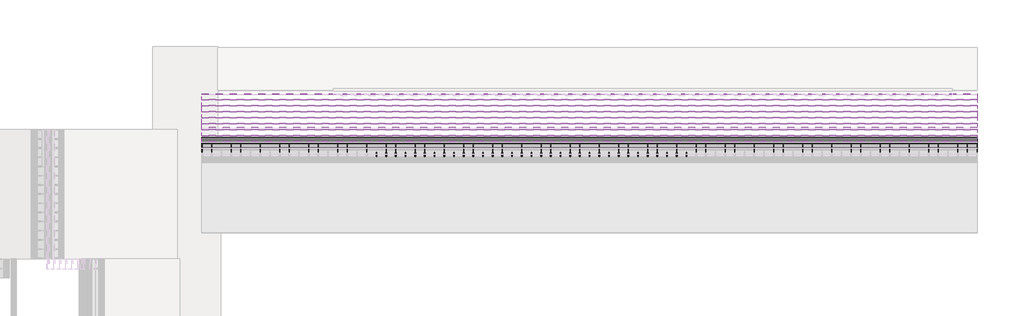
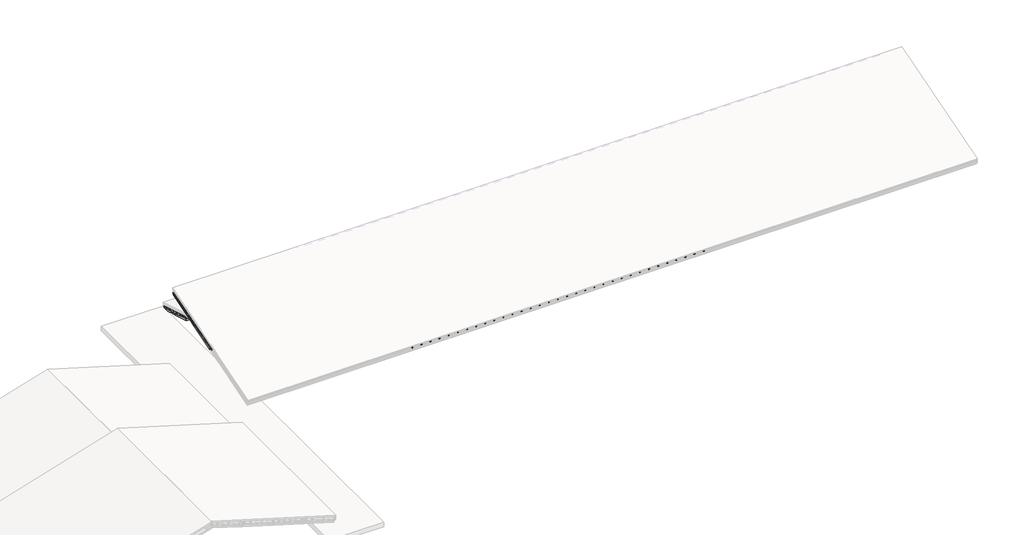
# One storey, part 56 of 57: 67 members, 55 plates.
"""IFC4 building model written with IfcOpenShell, lengths in millimetres."""

from ifc_helpers import new_model, si_unit, origin, place, context, project, spatial, transform, mapped, element, save
from components import rectangular_mullion_caibro_ac6bc083, rectangular_mullion_caibro_51e85f04, empty_system_panel_vazio_e755573b, empty_system_panel_vazio_700aa425, empty_system_panel_vazio_226a38a9, empty_system_panel_vazio_61b4e04a, empty_system_panel_vazio_b4dcf635, empty_system_panel_vazio_fe0185ec, empty_system_panel_vazio_7533109b

model = new_model("IFC4")

# Units and contexts
model_context = context("Model", 3, world=origin())
ifc_project = project(units=[si_unit("LENGTHUNIT", "METRE", prefix="MILLI")], contexts=[model_context])

# Site, building, storey
site = spatial("IfcSite", under=ifc_project)
building = spatial("IfcBuilding", under=site)
storey = spatial("IfcBuildingStorey", under=building, Name="Nível 2", Elevation=4100.0)

# Members
placement = place(None, origin())
rectangular_mullion_caibro_shape = rectangular_mullion_caibro_ac6bc083(model_context)
element("IfcMember", 1, ObjectType="Rectangular Mullion : Caibro", at=placement, inside=storey, context=model_context, shape_type="MappedRepresentation", body=[
    mapped(rectangular_mullion_caibro_shape, transform((12522.37465, 36560.5418609, 6394.8354824), x_axis=(1.0, 0.0, 0.0), y_axis=(0.0, 0.2873478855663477, -0.9578262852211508), z_axis=(0.0, 0.9578262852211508, 0.2873478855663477))),
])
element("IfcMember", 2, ObjectType="Rectangular Mullion : Caibro", at=placement, inside=storey, context=model_context, shape_type="MappedRepresentation", body=[
    mapped(rectangular_mullion_caibro_shape, transform((13120.7549887, 36560.5418609, 6394.8354824), x_axis=(1.0, 0.0, 0.0), y_axis=(0.0, 0.2873478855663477, -0.9578262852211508), z_axis=(0.0, 0.9578262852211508, 0.2873478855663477))),
])
element("IfcMember", 3, ObjectType="Rectangular Mullion : Caibro", at=placement, inside=storey, context=model_context, shape_type="MappedRepresentation", body=[
    mapped(rectangular_mullion_caibro_shape, transform((13719.1353275, 36560.5418609, 6394.8354824), x_axis=(1.0, 0.0, 0.0), y_axis=(0.0, 0.2873478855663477, -0.9578262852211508), z_axis=(0.0, 0.9578262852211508, 0.2873478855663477))),
])
element("IfcMember", 4, ObjectType="Rectangular Mullion : Caibro", at=placement, inside=storey, context=model_context, shape_type="MappedRepresentation", body=[
    mapped(rectangular_mullion_caibro_shape, transform((14317.5156662, 36560.5418609, 6394.8354824), x_axis=(1.0, 0.0, 0.0), y_axis=(0.0, 0.2873478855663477, -0.9578262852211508), z_axis=(0.0, 0.9578262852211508, 0.2873478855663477))),
])
element("IfcMember", 5, ObjectType="Rectangular Mullion : Caibro", at=placement, inside=storey, context=model_context, shape_type="MappedRepresentation", body=[
    mapped(rectangular_mullion_caibro_shape, transform((14915.8960049, 36560.5418609, 6394.8354824), x_axis=(1.0, 0.0, 0.0), y_axis=(0.0, 0.2873478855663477, -0.9578262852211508), z_axis=(0.0, 0.9578262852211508, 0.2873478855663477))),
])
element("IfcMember", 6, ObjectType="Rectangular Mullion : Caibro", at=placement, inside=storey, context=model_context, shape_type="MappedRepresentation", body=[
    mapped(rectangular_mullion_caibro_shape, transform((15514.2763437, 36560.5418609, 6394.8354824), x_axis=(1.0, 0.0, 0.0), y_axis=(0.0, 0.2873478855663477, -0.9578262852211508), z_axis=(0.0, 0.9578262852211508, 0.2873478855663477))),
])
element("IfcMember", 7, ObjectType="Rectangular Mullion : Caibro", at=placement, inside=storey, context=model_context, shape_type="MappedRepresentation", body=[
    mapped(rectangular_mullion_caibro_shape, transform((16112.6566824, 36560.5418609, 6394.8354824), x_axis=(1.0, 0.0, 0.0), y_axis=(0.0, 0.2873478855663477, -0.9578262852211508), z_axis=(0.0, 0.9578262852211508, 0.2873478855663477))),
])
element("IfcMember", 8, ObjectType="Rectangular Mullion : Caibro", at=placement, inside=storey, context=model_context, shape_type="MappedRepresentation", body=[
    mapped(rectangular_mullion_caibro_shape, transform((16711.0370211, 36560.5418609, 6394.8354824), x_axis=(1.0, 0.0, 0.0), y_axis=(0.0, 0.2873478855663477, -0.9578262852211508), z_axis=(0.0, 0.9578262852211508, 0.2873478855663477))),
])
element("IfcMember", 9, ObjectType="Rectangular Mullion : Caibro", at=placement, inside=storey, context=model_context, shape_type="MappedRepresentation", body=[
    mapped(rectangular_mullion_caibro_shape, transform((17309.4173599, 36560.5418609, 6394.8354824), x_axis=(1.0, 0.0, 0.0), y_axis=(0.0, 0.2873478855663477, -0.9578262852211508), z_axis=(0.0, 0.9578262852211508, 0.2873478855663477))),
])
element("IfcMember", 10, ObjectType="Rectangular Mullion : Caibro", at=placement, inside=storey, context=model_context, shape_type="MappedRepresentation", body=[
    mapped(rectangular_mullion_caibro_shape, transform((17907.7976986, 36560.5418609, 6394.8354824), x_axis=(1.0, 0.0, 0.0), y_axis=(0.0, 0.2873478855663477, -0.9578262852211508), z_axis=(0.0, 0.9578262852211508, 0.2873478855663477))),
])
element("IfcMember", 11, ObjectType="Rectangular Mullion : Caibro", at=placement, inside=storey, context=model_context, shape_type="MappedRepresentation", body=[
    mapped(rectangular_mullion_caibro_shape, transform((18506.1780373, 36560.5418609, 6394.8354824), x_axis=(1.0, 0.0, 0.0), y_axis=(0.0, 0.2873478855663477, -0.9578262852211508), z_axis=(0.0, 0.9578262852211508, 0.2873478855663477))),
])
element("IfcMember", 12, ObjectType="Rectangular Mullion : Caibro", at=placement, inside=storey, context=model_context, shape_type="MappedRepresentation", body=[
    mapped(rectangular_mullion_caibro_shape, transform((19104.5583761, 36560.5418609, 6394.8354824), x_axis=(1.0, 0.0, 0.0), y_axis=(0.0, 0.2873478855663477, -0.9578262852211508), z_axis=(0.0, 0.9578262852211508, 0.2873478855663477))),
])
element("IfcMember", 13, ObjectType="Rectangular Mullion : Caibro", at=placement, inside=storey, context=model_context, shape_type="MappedRepresentation", body=[
    mapped(rectangular_mullion_caibro_shape, transform((19702.9387148, 36560.5418609, 6394.8354824), x_axis=(1.0, 0.0, 0.0), y_axis=(0.0, 0.2873478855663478, -0.9578262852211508), z_axis=(0.0, 0.9578262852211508, 0.2873478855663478))),
])
element("IfcMember", 14, ObjectType="Rectangular Mullion : Caibro", at=placement, inside=storey, context=model_context, shape_type="MappedRepresentation", body=[
    mapped(rectangular_mullion_caibro_shape, transform((20301.3190536, 36560.5418609, 6394.8354824), x_axis=(1.0, 0.0, 0.0), y_axis=(0.0, 0.2873478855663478, -0.9578262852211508), z_axis=(0.0, 0.9578262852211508, 0.2873478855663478))),
])
element("IfcMember", 15, ObjectType="Rectangular Mullion : Caibro", at=placement, inside=storey, context=model_context, shape_type="MappedRepresentation", body=[
    mapped(rectangular_mullion_caibro_shape, transform((20899.6993923, 36560.5418609, 6394.8354824), x_axis=(1.0, 0.0, 0.0), y_axis=(0.0, 0.2873478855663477, -0.9578262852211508), z_axis=(0.0, 0.9578262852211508, 0.2873478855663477))),
])
element("IfcMember", 16, ObjectType="Rectangular Mullion : Caibro", at=placement, inside=storey, context=model_context, shape_type="MappedRepresentation", body=[
    mapped(rectangular_mullion_caibro_shape, transform((21498.079731, 36560.5418609, 6394.8354824), x_axis=(1.0, 0.0, 0.0), y_axis=(0.0, 0.2873478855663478, -0.9578262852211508), z_axis=(0.0, 0.9578262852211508, 0.2873478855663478))),
])
element("IfcMember", 17, ObjectType="Rectangular Mullion : Caibro", at=placement, inside=storey, context=model_context, shape_type="MappedRepresentation", body=[
    mapped(rectangular_mullion_caibro_shape, transform((22096.4600698, 36560.5418609, 6394.8354824), x_axis=(1.0, 0.0, 0.0), y_axis=(0.0, 0.2873478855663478, -0.9578262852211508), z_axis=(0.0, 0.9578262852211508, 0.2873478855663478))),
])
element("IfcMember", 18, ObjectType="Rectangular Mullion : Caibro", at=placement, inside=storey, context=model_context, shape_type="MappedRepresentation", body=[
    mapped(rectangular_mullion_caibro_shape, transform((22694.8404085, 36560.5418609, 6394.8354824), x_axis=(1.0, 0.0, 0.0), y_axis=(0.0, 0.2873478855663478, -0.9578262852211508), z_axis=(0.0, 0.9578262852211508, 0.2873478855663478))),
])
element("IfcMember", 19, ObjectType="Rectangular Mullion : Caibro", at=placement, inside=storey, context=model_context, shape_type="MappedRepresentation", body=[
    mapped(rectangular_mullion_caibro_shape, transform((23293.2207472, 36560.5418609, 6394.8354824), x_axis=(1.0, 0.0, 0.0), y_axis=(0.0, 0.2873478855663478, -0.9578262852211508), z_axis=(0.0, 0.9578262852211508, 0.2873478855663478))),
])
element("IfcMember", 20, ObjectType="Rectangular Mullion : Caibro", at=placement, inside=storey, context=model_context, shape_type="MappedRepresentation", body=[
    mapped(rectangular_mullion_caibro_shape, transform((23891.601086, 36560.5418609, 6394.8354824), x_axis=(1.0, 0.0, 0.0), y_axis=(0.0, 0.2873478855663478, -0.9578262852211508), z_axis=(0.0, 0.9578262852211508, 0.2873478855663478))),
])
element("IfcMember", 21, ObjectType="Rectangular Mullion : Caibro", at=placement, inside=storey, context=model_context, shape_type="MappedRepresentation", body=[
    mapped(rectangular_mullion_caibro_shape, transform((24489.9814247, 36560.5418609, 6394.8354824), x_axis=(1.0, 0.0, 0.0), y_axis=(0.0, 0.2873478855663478, -0.9578262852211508), z_axis=(0.0, 0.9578262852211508, 0.2873478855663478))),
])
element("IfcMember", 22, ObjectType="Rectangular Mullion : Caibro", at=placement, inside=storey, context=model_context, shape_type="MappedRepresentation", body=[
    mapped(rectangular_mullion_caibro_shape, transform((25088.3617634, 36560.5418609, 6394.8354824), x_axis=(1.0, 0.0, 0.0), y_axis=(0.0, 0.2873478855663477, -0.9578262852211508), z_axis=(0.0, 0.9578262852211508, 0.2873478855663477))),
])
element("IfcMember", 23, ObjectType="Rectangular Mullion : Caibro", at=placement, inside=storey, context=model_context, shape_type="MappedRepresentation", body=[
    mapped(rectangular_mullion_caibro_shape, transform((25686.7421022, 36560.5418609, 6394.8354824), x_axis=(1.0, 0.0, 0.0), y_axis=(0.0, 0.2873478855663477, -0.9578262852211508), z_axis=(0.0, 0.9578262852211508, 0.2873478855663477))),
])
element("IfcMember", 24, ObjectType="Rectangular Mullion : Caibro", at=placement, inside=storey, context=model_context, shape_type="MappedRepresentation", body=[
    mapped(rectangular_mullion_caibro_shape, transform((26285.1224409, 36560.5418609, 6394.8354824), x_axis=(1.0, 0.0, 0.0), y_axis=(0.0, 0.2873478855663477, -0.9578262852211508), z_axis=(0.0, 0.9578262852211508, 0.2873478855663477))),
])
element("IfcMember", 25, ObjectType="Rectangular Mullion : Caibro", at=placement, inside=storey, context=model_context, shape_type="MappedRepresentation", body=[
    mapped(rectangular_mullion_caibro_shape, transform((26883.5027796, 36560.5418609, 6394.8354824), x_axis=(1.0, 0.0, 0.0), y_axis=(0.0, 0.2873478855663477, -0.9578262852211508), z_axis=(0.0, 0.9578262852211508, 0.2873478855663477))),
])
element("IfcMember", 26, ObjectType="Rectangular Mullion : Caibro", at=placement, inside=storey, context=model_context, shape_type="MappedRepresentation", body=[
    mapped(rectangular_mullion_caibro_shape, transform((27481.8831184, 36560.5418609, 6394.8354824), x_axis=(1.0, 0.0, 0.0), y_axis=(0.0, 0.2873478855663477, -0.9578262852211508), z_axis=(0.0, 0.9578262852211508, 0.2873478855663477))),
])
element("IfcMember", 27, ObjectType="Rectangular Mullion : Caibro", at=placement, inside=storey, context=model_context, shape_type="MappedRepresentation", body=[
    mapped(rectangular_mullion_caibro_shape, transform((28080.2634571, 36560.5418609, 6394.8354824), x_axis=(1.0, 0.0, 0.0), y_axis=(0.0, 0.2873478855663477, -0.9578262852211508), z_axis=(0.0, 0.9578262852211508, 0.2873478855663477))),
])
element("IfcMember", 28, ObjectType="Rectangular Mullion : Caibro", at=placement, inside=storey, context=model_context, shape_type="MappedRepresentation", body=[
    mapped(rectangular_mullion_caibro_shape, transform((28678.6437958, 36560.5418609, 6394.8354824), x_axis=(1.0, 0.0, 0.0), y_axis=(0.0, 0.2873478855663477, -0.9578262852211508), z_axis=(0.0, 0.9578262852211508, 0.2873478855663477))),
])
element("IfcMember", 29, ObjectType="Rectangular Mullion : Caibro", at=placement, inside=storey, context=model_context, shape_type="MappedRepresentation", body=[
    mapped(rectangular_mullion_caibro_shape, transform((29277.0241346, 36560.5418609, 6394.8354824), x_axis=(1.0, 0.0, 0.0), y_axis=(0.0, 0.2873478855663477, -0.9578262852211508), z_axis=(0.0, 0.9578262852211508, 0.2873478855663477))),
])
element("IfcMember", 30, ObjectType="Rectangular Mullion : Caibro", at=placement, inside=storey, context=model_context, shape_type="MappedRepresentation", body=[
    mapped(rectangular_mullion_caibro_shape, transform((29875.4044733, 36560.5418609, 6394.8354824), x_axis=(1.0, 0.0, 0.0), y_axis=(0.0, 0.2873478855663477, -0.9578262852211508), z_axis=(0.0, 0.9578262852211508, 0.2873478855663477))),
])
element("IfcMember", 31, ObjectType="Rectangular Mullion : Caibro", at=placement, inside=storey, context=model_context, shape_type="MappedRepresentation", body=[
    mapped(rectangular_mullion_caibro_shape, transform((30473.784812, 36560.5418609, 6394.8354824), x_axis=(1.0, 0.0, 0.0), y_axis=(0.0, 0.2873478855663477, -0.9578262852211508), z_axis=(0.0, 0.9578262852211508, 0.2873478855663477))),
])
element("IfcMember", 32, ObjectType="Rectangular Mullion : Caibro", at=placement, inside=storey, context=model_context, shape_type="MappedRepresentation", body=[
    mapped(rectangular_mullion_caibro_shape, transform((31072.1651508, 36560.5418609, 6394.8354824), x_axis=(1.0, 0.0, 0.0), y_axis=(0.0, 0.2873478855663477, -0.9578262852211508), z_axis=(0.0, 0.9578262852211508, 0.2873478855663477))),
])
element("IfcMember", 33, ObjectType="Rectangular Mullion : Caibro", at=placement, inside=storey, context=model_context, shape_type="MappedRepresentation", body=[
    mapped(rectangular_mullion_caibro_shape, transform((31670.5454895, 36560.5418609, 6394.8354824), x_axis=(1.0, 0.0, 0.0), y_axis=(0.0, 0.2873478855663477, -0.9578262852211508), z_axis=(0.0, 0.9578262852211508, 0.2873478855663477))),
])
rectangular_mullion_caibro_2_shape = rectangular_mullion_caibro_51e85f04(model_context)
element("IfcMember", 34, ObjectType="Rectangular Mullion : Caibro", at=placement, inside=storey, context=model_context, shape_type="MappedRepresentation", body=[
    mapped(rectangular_mullion_caibro_2_shape, transform((31823.0592849, 36776.0629917, 4109.1977012), x_axis=(-1.0, 0.0, 0.0), y_axis=(0.0, -0.2873478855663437, -0.9578262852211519), z_axis=(0.0, -0.9578262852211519, 0.2873478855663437))),
])
element("IfcMember", 35, ObjectType="Rectangular Mullion : Caibro", at=placement, inside=storey, context=model_context, shape_type="MappedRepresentation", body=[
    mapped(rectangular_mullion_caibro_2_shape, transform((31229.7627394, 36776.0629917, 4109.1977012), x_axis=(-1.0, 0.0, 0.0), y_axis=(0.0, -0.2873478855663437, -0.9578262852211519), z_axis=(0.0, -0.9578262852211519, 0.2873478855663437))),
])
element("IfcMember", 36, ObjectType="Rectangular Mullion : Caibro", at=placement, inside=storey, context=model_context, shape_type="MappedRepresentation", body=[
    mapped(rectangular_mullion_caibro_2_shape, transform((30636.4661938, 36776.0629917, 4109.1977012), x_axis=(-1.0, 0.0, 0.0), y_axis=(0.0, -0.2873478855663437, -0.9578262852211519), z_axis=(0.0, -0.9578262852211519, 0.2873478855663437))),
])
element("IfcMember", 37, ObjectType="Rectangular Mullion : Caibro", at=placement, inside=storey, context=model_context, shape_type="MappedRepresentation", body=[
    mapped(rectangular_mullion_caibro_2_shape, transform((30043.1696483, 36776.0629917, 4109.1977012), x_axis=(-1.0, 0.0, 0.0), y_axis=(0.0, -0.2873478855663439, -0.9578262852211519), z_axis=(0.0, -0.9578262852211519, 0.2873478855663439))),
])
element("IfcMember", 38, ObjectType="Rectangular Mullion : Caibro", at=placement, inside=storey, context=model_context, shape_type="MappedRepresentation", body=[
    mapped(rectangular_mullion_caibro_2_shape, transform((29449.8731027, 36776.0629917, 4109.1977012), x_axis=(-1.0, 0.0, 0.0), y_axis=(0.0, -0.2873478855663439, -0.9578262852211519), z_axis=(0.0, -0.9578262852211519, 0.2873478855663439))),
])
element("IfcMember", 39, ObjectType="Rectangular Mullion : Caibro", at=placement, inside=storey, context=model_context, shape_type="MappedRepresentation", body=[
    mapped(rectangular_mullion_caibro_2_shape, transform((28856.5765572, 36776.0629917, 4109.1977012), x_axis=(-1.0, 0.0, 0.0), y_axis=(0.0, -0.2873478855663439, -0.9578262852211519), z_axis=(0.0, -0.9578262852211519, 0.2873478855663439))),
])
element("IfcMember", 40, ObjectType="Rectangular Mullion : Caibro", at=placement, inside=storey, context=model_context, shape_type="MappedRepresentation", body=[
    mapped(rectangular_mullion_caibro_2_shape, transform((28263.2800116, 36776.0629917, 4109.1977012), x_axis=(-1.0, 0.0, 0.0), y_axis=(0.0, -0.2873478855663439, -0.9578262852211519), z_axis=(0.0, -0.9578262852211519, 0.2873478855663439))),
])
element("IfcMember", 41, ObjectType="Rectangular Mullion : Caibro", at=placement, inside=storey, context=model_context, shape_type="MappedRepresentation", body=[
    mapped(rectangular_mullion_caibro_2_shape, transform((27669.983466, 36776.0629917, 4109.1977012), x_axis=(-1.0, 0.0, 0.0), y_axis=(0.0, -0.2873478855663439, -0.9578262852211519), z_axis=(0.0, -0.9578262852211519, 0.2873478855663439))),
])
element("IfcMember", 42, ObjectType="Rectangular Mullion : Caibro", at=placement, inside=storey, context=model_context, shape_type="MappedRepresentation", body=[
    mapped(rectangular_mullion_caibro_2_shape, transform((27076.6869205, 36776.0629917, 4109.1977012), x_axis=(-1.0, 0.0, 0.0), y_axis=(0.0, -0.2873478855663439, -0.9578262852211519), z_axis=(0.0, -0.9578262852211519, 0.2873478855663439))),
])
element("IfcMember", 43, ObjectType="Rectangular Mullion : Caibro", at=placement, inside=storey, context=model_context, shape_type="MappedRepresentation", body=[
    mapped(rectangular_mullion_caibro_2_shape, transform((26483.3903749, 36776.0629917, 4109.1977012), x_axis=(-1.0, 0.0, 0.0), y_axis=(0.0, -0.2873478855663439, -0.9578262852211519), z_axis=(0.0, -0.9578262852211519, 0.2873478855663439))),
])
element("IfcMember", 44, ObjectType="Rectangular Mullion : Caibro", at=placement, inside=storey, context=model_context, shape_type="MappedRepresentation", body=[
    mapped(rectangular_mullion_caibro_2_shape, transform((25890.0938294, 36776.0629917, 4109.1977012), x_axis=(-1.0, 0.0, 0.0), y_axis=(0.0, -0.2873478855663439, -0.9578262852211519), z_axis=(0.0, -0.9578262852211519, 0.2873478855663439))),
])
element("IfcMember", 45, ObjectType="Rectangular Mullion : Caibro", at=placement, inside=storey, context=model_context, shape_type="MappedRepresentation", body=[
    mapped(rectangular_mullion_caibro_2_shape, transform((25296.7972838, 36776.0629917, 4109.1977012), x_axis=(-1.0, 0.0, 0.0), y_axis=(0.0, -0.2873478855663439, -0.9578262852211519), z_axis=(0.0, -0.9578262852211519, 0.2873478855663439))),
])
element("IfcMember", 46, ObjectType="Rectangular Mullion : Caibro", at=placement, inside=storey, context=model_context, shape_type="MappedRepresentation", body=[
    mapped(rectangular_mullion_caibro_2_shape, transform((24703.5007383, 36776.0629917, 4109.1977012), x_axis=(-1.0, 0.0, 0.0), y_axis=(0.0, -0.2873478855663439, -0.9578262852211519), z_axis=(0.0, -0.9578262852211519, 0.2873478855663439))),
])
element("IfcMember", 47, ObjectType="Rectangular Mullion : Caibro", at=placement, inside=storey, context=model_context, shape_type="MappedRepresentation", body=[
    mapped(rectangular_mullion_caibro_2_shape, transform((24110.2041927, 36776.0629917, 4109.1977012), x_axis=(-1.0, 0.0, 0.0), y_axis=(0.0, -0.2873478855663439, -0.9578262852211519), z_axis=(0.0, -0.9578262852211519, 0.2873478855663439))),
])
element("IfcMember", 48, ObjectType="Rectangular Mullion : Caibro", at=placement, inside=storey, context=model_context, shape_type="MappedRepresentation", body=[
    mapped(rectangular_mullion_caibro_2_shape, transform((23516.9076472, 36776.0629917, 4109.1977012), x_axis=(-1.0, 0.0, 0.0), y_axis=(0.0, -0.2873478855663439, -0.9578262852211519), z_axis=(0.0, -0.9578262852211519, 0.2873478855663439))),
])
element("IfcMember", 49, ObjectType="Rectangular Mullion : Caibro", at=placement, inside=storey, context=model_context, shape_type="MappedRepresentation", body=[
    mapped(rectangular_mullion_caibro_2_shape, transform((22923.6111016, 36776.0629917, 4109.1977012), x_axis=(-1.0, 0.0, 0.0), y_axis=(0.0, -0.2873478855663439, -0.9578262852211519), z_axis=(0.0, -0.9578262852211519, 0.2873478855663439))),
])
element("IfcMember", 50, ObjectType="Rectangular Mullion : Caibro", at=placement, inside=storey, context=model_context, shape_type="MappedRepresentation", body=[
    mapped(rectangular_mullion_caibro_2_shape, transform((22330.3145561, 36776.0629917, 4109.1977012), x_axis=(-1.0, 0.0, 0.0), y_axis=(0.0, -0.2873478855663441, -0.9578262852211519), z_axis=(0.0, -0.9578262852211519, 0.2873478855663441))),
])
element("IfcMember", 51, ObjectType="Rectangular Mullion : Caibro", at=placement, inside=storey, context=model_context, shape_type="MappedRepresentation", body=[
    mapped(rectangular_mullion_caibro_2_shape, transform((21737.0180105, 36776.0629917, 4109.1977012), x_axis=(-1.0, 0.0, 0.0), y_axis=(0.0, -0.2873478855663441, -0.9578262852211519), z_axis=(0.0, -0.9578262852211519, 0.2873478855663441))),
])
element("IfcMember", 52, ObjectType="Rectangular Mullion : Caibro", at=placement, inside=storey, context=model_context, shape_type="MappedRepresentation", body=[
    mapped(rectangular_mullion_caibro_2_shape, transform((21143.721465, 36776.0629917, 4109.1977012), x_axis=(-1.0, 0.0, 0.0), y_axis=(0.0, -0.2873478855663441, -0.9578262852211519), z_axis=(0.0, -0.9578262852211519, 0.2873478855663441))),
])
element("IfcMember", 53, ObjectType="Rectangular Mullion : Caibro", at=placement, inside=storey, context=model_context, shape_type="MappedRepresentation", body=[
    mapped(rectangular_mullion_caibro_2_shape, transform((20550.4249194, 36776.0629917, 4109.1977012), x_axis=(-1.0, 0.0, 0.0), y_axis=(0.0, -0.2873478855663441, -0.9578262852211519), z_axis=(0.0, -0.9578262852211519, 0.2873478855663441))),
])
element("IfcMember", 54, ObjectType="Rectangular Mullion : Caibro", at=placement, inside=storey, context=model_context, shape_type="MappedRepresentation", body=[
    mapped(rectangular_mullion_caibro_2_shape, transform((19957.1283738, 36776.0629917, 4109.1977012), x_axis=(-1.0, 0.0, 0.0), y_axis=(0.0, -0.2873478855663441, -0.9578262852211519), z_axis=(0.0, -0.9578262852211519, 0.2873478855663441))),
])
element("IfcMember", 55, ObjectType="Rectangular Mullion : Caibro", at=placement, inside=storey, context=model_context, shape_type="MappedRepresentation", body=[
    mapped(rectangular_mullion_caibro_2_shape, transform((19363.8318283, 36776.0629917, 4109.1977012), x_axis=(-1.0, 0.0, 0.0), y_axis=(0.0, -0.2873478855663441, -0.9578262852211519), z_axis=(0.0, -0.9578262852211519, 0.2873478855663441))),
])
element("IfcMember", 56, ObjectType="Rectangular Mullion : Caibro", at=placement, inside=storey, context=model_context, shape_type="MappedRepresentation", body=[
    mapped(rectangular_mullion_caibro_2_shape, transform((18770.5352827, 36776.0629917, 4109.1977012), x_axis=(-1.0, 0.0, 0.0), y_axis=(0.0, -0.2873478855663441, -0.9578262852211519), z_axis=(0.0, -0.9578262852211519, 0.2873478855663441))),
])
element("IfcMember", 57, ObjectType="Rectangular Mullion : Caibro", at=placement, inside=storey, context=model_context, shape_type="MappedRepresentation", body=[
    mapped(rectangular_mullion_caibro_2_shape, transform((18177.2387372, 36776.0629917, 4109.1977012), x_axis=(-1.0, 0.0, 0.0), y_axis=(0.0, -0.2873478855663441, -0.9578262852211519), z_axis=(0.0, -0.9578262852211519, 0.2873478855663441))),
])
element("IfcMember", 58, ObjectType="Rectangular Mullion : Caibro", at=placement, inside=storey, context=model_context, shape_type="MappedRepresentation", body=[
    mapped(rectangular_mullion_caibro_2_shape, transform((17583.9421916, 36776.0629917, 4109.1977012), x_axis=(-1.0, 0.0, 0.0), y_axis=(0.0, -0.2873478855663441, -0.9578262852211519), z_axis=(0.0, -0.9578262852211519, 0.2873478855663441))),
])
element("IfcMember", 59, ObjectType="Rectangular Mullion : Caibro", at=placement, inside=storey, context=model_context, shape_type="MappedRepresentation", body=[
    mapped(rectangular_mullion_caibro_2_shape, transform((16990.6456461, 36776.0629917, 4109.1977012), x_axis=(-1.0, 0.0, 0.0), y_axis=(0.0, -0.2873478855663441, -0.9578262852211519), z_axis=(0.0, -0.9578262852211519, 0.2873478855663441))),
])
element("IfcMember", 60, ObjectType="Rectangular Mullion : Caibro", at=placement, inside=storey, context=model_context, shape_type="MappedRepresentation", body=[
    mapped(rectangular_mullion_caibro_2_shape, transform((16397.3491005, 36776.0629917, 4109.1977012), x_axis=(-1.0, 0.0, 0.0), y_axis=(0.0, -0.2873478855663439, -0.9578262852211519), z_axis=(0.0, -0.9578262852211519, 0.2873478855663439))),
])
element("IfcMember", 61, ObjectType="Rectangular Mullion : Caibro", at=placement, inside=storey, context=model_context, shape_type="MappedRepresentation", body=[
    mapped(rectangular_mullion_caibro_2_shape, transform((15804.052555, 36776.0629917, 4109.1977012), x_axis=(-1.0, 0.0, 0.0), y_axis=(0.0, -0.2873478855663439, -0.9578262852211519), z_axis=(0.0, -0.9578262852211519, 0.2873478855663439))),
])
element("IfcMember", 62, ObjectType="Rectangular Mullion : Caibro", at=placement, inside=storey, context=model_context, shape_type="MappedRepresentation", body=[
    mapped(rectangular_mullion_caibro_2_shape, transform((15210.7560094, 36776.0629917, 4109.1977012), x_axis=(-1.0, 0.0, 0.0), y_axis=(0.0, -0.2873478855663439, -0.9578262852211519), z_axis=(0.0, -0.9578262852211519, 0.2873478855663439))),
])
element("IfcMember", 63, ObjectType="Rectangular Mullion : Caibro", at=placement, inside=storey, context=model_context, shape_type="MappedRepresentation", body=[
    mapped(rectangular_mullion_caibro_2_shape, transform((14617.4594639, 36776.0629917, 4109.1977012), x_axis=(-1.0, 0.0, 0.0), y_axis=(0.0, -0.2873478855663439, -0.9578262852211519), z_axis=(0.0, -0.9578262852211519, 0.2873478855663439))),
])
element("IfcMember", 64, ObjectType="Rectangular Mullion : Caibro", at=placement, inside=storey, context=model_context, shape_type="MappedRepresentation", body=[
    mapped(rectangular_mullion_caibro_2_shape, transform((14024.1629183, 36776.0629917, 4109.1977012), x_axis=(-1.0, 0.0, 0.0), y_axis=(0.0, -0.2873478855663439, -0.9578262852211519), z_axis=(0.0, -0.9578262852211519, 0.2873478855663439))),
])
element("IfcMember", 65, ObjectType="Rectangular Mullion : Caibro", at=placement, inside=storey, context=model_context, shape_type="MappedRepresentation", body=[
    mapped(rectangular_mullion_caibro_2_shape, transform((13430.8663728, 36776.0629917, 4109.1977012), x_axis=(-1.0, 0.0, 0.0), y_axis=(0.0, -0.2873478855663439, -0.9578262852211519), z_axis=(0.0, -0.9578262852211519, 0.2873478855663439))),
])
element("IfcMember", 66, ObjectType="Rectangular Mullion : Caibro", at=placement, inside=storey, context=model_context, shape_type="MappedRepresentation", body=[
    mapped(rectangular_mullion_caibro_2_shape, transform((12837.5698272, 36776.0629917, 4109.1977012), x_axis=(-1.0, 0.0, 0.0), y_axis=(0.0, -0.2873478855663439, -0.9578262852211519), z_axis=(0.0, -0.9578262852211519, 0.2873478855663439))),
])
element("IfcMember", 67, ObjectType="Rectangular Mullion : Caibro", at=placement, inside=storey, context=model_context, shape_type="MappedRepresentation", body=[
    mapped(rectangular_mullion_caibro_2_shape, transform((12244.2732816, 36776.0629917, 4109.1977012), x_axis=(-1.0, 0.0, 0.0), y_axis=(0.0, -0.2873478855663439, -0.9578262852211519), z_axis=(0.0, -0.9578262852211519, 0.2873478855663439))),
])

# Plates
empty_system_panel_vazio_shape = empty_system_panel_vazio_e755573b(model_context)
element("IfcPlate", 68, ObjectType="Empty System Panel : Vazio", at=placement, inside=storey, context=model_context, shape_type="MappedRepresentation", body=[
    mapped(empty_system_panel_vazio_shape, transform((25686.7421022, 32116.1727819, 5061.5247587), x_axis=(1.0, 0.0, 0.0), y_axis=(0.0, 0.2873478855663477, -0.9578262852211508), z_axis=(0.0, 0.9578262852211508, 0.2873478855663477))),
])
element("IfcPlate", 69, ObjectType="Empty System Panel : Vazio", at=placement, inside=storey, context=model_context, shape_type="MappedRepresentation", body=[
    mapped(empty_system_panel_vazio_shape, transform((25686.7421022, 32486.5368718, 5172.6339857), x_axis=(1.0, 0.0, 0.0), y_axis=(0.0, 0.2873478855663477, -0.9578262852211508), z_axis=(0.0, 0.9578262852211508, 0.2873478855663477))),
])
element("IfcPlate", 70, ObjectType="Empty System Panel : Vazio", at=placement, inside=storey, context=model_context, shape_type="MappedRepresentation", body=[
    mapped(empty_system_panel_vazio_shape, transform((25686.7421022, 32856.9009617, 5283.7432127), x_axis=(1.0, 0.0, 0.0), y_axis=(0.0, 0.2873478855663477, -0.9578262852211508), z_axis=(0.0, 0.9578262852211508, 0.2873478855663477))),
])
element("IfcPlate", 71, ObjectType="Empty System Panel : Vazio", at=placement, inside=storey, context=model_context, shape_type="MappedRepresentation", body=[
    mapped(empty_system_panel_vazio_shape, transform((25686.7421022, 33227.2650516, 5394.8524396), x_axis=(1.0, 0.0, 0.0), y_axis=(0.0, 0.2873478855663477, -0.9578262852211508), z_axis=(0.0, 0.9578262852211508, 0.2873478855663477))),
])
element("IfcPlate", 72, ObjectType="Empty System Panel : Vazio", at=placement, inside=storey, context=model_context, shape_type="MappedRepresentation", body=[
    mapped(empty_system_panel_vazio_shape, transform((25686.7421022, 33597.6291416, 5505.9616666), x_axis=(1.0, 0.0, 0.0), y_axis=(0.0, 0.2873478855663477, -0.9578262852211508), z_axis=(0.0, 0.9578262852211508, 0.2873478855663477))),
])
element("IfcPlate", 73, ObjectType="Empty System Panel : Vazio", at=placement, inside=storey, context=model_context, shape_type="MappedRepresentation", body=[
    mapped(empty_system_panel_vazio_shape, transform((25686.7421022, 33967.9932315, 5617.0708936), x_axis=(1.0, 0.0, 0.0), y_axis=(0.0, 0.2873478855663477, -0.9578262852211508), z_axis=(0.0, 0.9578262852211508, 0.2873478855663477))),
])
element("IfcPlate", 74, ObjectType="Empty System Panel : Vazio", at=placement, inside=storey, context=model_context, shape_type="MappedRepresentation", body=[
    mapped(empty_system_panel_vazio_shape, transform((25686.7421022, 34338.3573214, 5728.1801206), x_axis=(1.0, 0.0, 0.0), y_axis=(0.0, 0.2873478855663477, -0.9578262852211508), z_axis=(0.0, 0.9578262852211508, 0.2873478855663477))),
])
element("IfcPlate", 75, ObjectType="Empty System Panel : Vazio", at=placement, inside=storey, context=model_context, shape_type="MappedRepresentation", body=[
    mapped(empty_system_panel_vazio_shape, transform((25686.7421022, 34708.7214113, 5839.2893475), x_axis=(1.0, 0.0, 0.0), y_axis=(0.0, 0.2873478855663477, -0.9578262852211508), z_axis=(0.0, 0.9578262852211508, 0.2873478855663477))),
])
element("IfcPlate", 76, ObjectType="Empty System Panel : Vazio", at=placement, inside=storey, context=model_context, shape_type="MappedRepresentation", body=[
    mapped(empty_system_panel_vazio_shape, transform((25686.7421022, 35079.0855012, 5950.3985745), x_axis=(1.0, 0.0, 0.0), y_axis=(0.0, 0.2873478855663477, -0.9578262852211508), z_axis=(0.0, 0.9578262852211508, 0.2873478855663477))),
])
element("IfcPlate", 77, ObjectType="Empty System Panel : Vazio", at=placement, inside=storey, context=model_context, shape_type="MappedRepresentation", body=[
    mapped(empty_system_panel_vazio_shape, transform((25686.7421022, 35449.4495911, 6061.5078015), x_axis=(1.0, 0.0, 0.0), y_axis=(0.0, 0.2873478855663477, -0.9578262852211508), z_axis=(0.0, 0.9578262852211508, 0.2873478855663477))),
])
element("IfcPlate", 78, ObjectType="Empty System Panel : Vazio", at=placement, inside=storey, context=model_context, shape_type="MappedRepresentation", body=[
    mapped(empty_system_panel_vazio_shape, transform((25686.7421022, 35819.813681, 6172.6170285), x_axis=(1.0, 0.0, 0.0), y_axis=(0.0, 0.2873478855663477, -0.9578262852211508), z_axis=(0.0, 0.9578262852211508, 0.2873478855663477))),
])
element("IfcPlate", 79, ObjectType="Empty System Panel : Vazio", at=placement, inside=storey, context=model_context, shape_type="MappedRepresentation", body=[
    mapped(empty_system_panel_vazio_shape, transform((25686.7421022, 36190.177771, 6283.7262554), x_axis=(1.0, 0.0, 0.0), y_axis=(0.0, 0.2873478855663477, -0.9578262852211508), z_axis=(0.0, 0.9578262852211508, 0.2873478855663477))),
])
empty_system_panel_vazio_2_shape = empty_system_panel_vazio_700aa425(model_context)
element("IfcPlate", 80, ObjectType="Empty System Panel : Vazio", at=placement, inside=storey, context=model_context, shape_type="MappedRepresentation", body=[
    mapped(empty_system_panel_vazio_2_shape, transform((25686.7421022, 32306.1439583, 4993.2324335), x_axis=(1.0, 0.0, 0.0), y_axis=(0.0, 0.2873478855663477, -0.9578262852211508), z_axis=(0.0, 0.9578262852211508, 0.2873478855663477))),
])
element("IfcPlate", 81, ObjectType="Empty System Panel : Vazio", at=placement, inside=storey, context=model_context, shape_type="MappedRepresentation", body=[
    mapped(empty_system_panel_vazio_2_shape, transform((25686.7421022, 34433.3429096, 5631.3921189), x_axis=(1.0, 0.0, 0.0), y_axis=(0.0, 0.2873478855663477, -0.9578262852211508), z_axis=(0.0, 0.9578262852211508, 0.2873478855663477))),
])
empty_system_panel_vazio_3_shape = empty_system_panel_vazio_226a38a9(model_context)
element("IfcPlate", 82, ObjectType="Empty System Panel : Vazio", at=placement, inside=storey, context=model_context, shape_type="MappedRepresentation", body=[
    mapped(empty_system_panel_vazio_3_shape, transform((26186.7421022, 39324.4368888, 3344.685532), x_axis=(-1.0, 0.0, 0.0), y_axis=(0.0, -0.28734788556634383, -0.957826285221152), z_axis=(0.0, -0.957826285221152, 0.28734788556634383))),
])
element("IfcPlate", 83, ObjectType="Empty System Panel : Vazio", at=placement, inside=storey, context=model_context, shape_type="MappedRepresentation", body=[
    mapped(empty_system_panel_vazio_3_shape, transform((26186.7421022, 38960.383475, 3453.9015562), x_axis=(-1.0, 0.0, 0.0), y_axis=(0.0, -0.28734788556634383, -0.957826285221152), z_axis=(0.0, -0.957826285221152, 0.28734788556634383))),
])
element("IfcPlate", 84, ObjectType="Empty System Panel : Vazio", at=placement, inside=storey, context=model_context, shape_type="MappedRepresentation", body=[
    mapped(empty_system_panel_vazio_3_shape, transform((26186.7421022, 38596.3300611, 3563.1175804), x_axis=(-1.0, 0.0, 0.0), y_axis=(0.0, -0.28734788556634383, -0.957826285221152), z_axis=(0.0, -0.957826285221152, 0.28734788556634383))),
])
element("IfcPlate", 85, ObjectType="Empty System Panel : Vazio", at=placement, inside=storey, context=model_context, shape_type="MappedRepresentation", body=[
    mapped(empty_system_panel_vazio_3_shape, transform((26186.7421022, 38232.2766472, 3672.3336045), x_axis=(-1.0, 0.0, 0.0), y_axis=(0.0, -0.28734788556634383, -0.957826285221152), z_axis=(0.0, -0.957826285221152, 0.28734788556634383))),
])
element("IfcPlate", 86, ObjectType="Empty System Panel : Vazio", at=placement, inside=storey, context=model_context, shape_type="MappedRepresentation", body=[
    mapped(empty_system_panel_vazio_3_shape, transform((26186.7421022, 37868.2232333, 3781.5496287), x_axis=(-1.0, 0.0, 0.0), y_axis=(0.0, -0.28734788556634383, -0.957826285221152), z_axis=(0.0, -0.957826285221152, 0.28734788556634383))),
])
element("IfcPlate", 87, ObjectType="Empty System Panel : Vazio", at=placement, inside=storey, context=model_context, shape_type="MappedRepresentation", body=[
    mapped(empty_system_panel_vazio_3_shape, transform((26186.7421022, 37504.1698194, 3890.7656529), x_axis=(-1.0, 0.0, 0.0), y_axis=(0.0, -0.28734788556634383, -0.957826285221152), z_axis=(0.0, -0.957826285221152, 0.28734788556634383))),
])
element("IfcPlate", 88, ObjectType="Empty System Panel : Vazio", at=placement, inside=storey, context=model_context, shape_type="MappedRepresentation", body=[
    mapped(empty_system_panel_vazio_3_shape, transform((26186.7421022, 37140.1164055, 3999.981677), x_axis=(-1.0, 0.0, 0.0), y_axis=(0.0, -0.28734788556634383, -0.957826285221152), z_axis=(0.0, -0.957826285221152, 0.28734788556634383))),
])
empty_system_panel_vazio_4_shape = empty_system_panel_vazio_61b4e04a(model_context)
element("IfcPlate", 89, ObjectType="Empty System Panel : Vazio", at=placement, inside=storey, context=model_context, shape_type="MappedRepresentation", body=[
    mapped(empty_system_panel_vazio_4_shape, transform((30933.1144666, 39372.3282031, 3330.3181378), x_axis=(-1.0, 0.0, 0.0), y_axis=(0.0, -0.28734788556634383, -0.957826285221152), z_axis=(0.0, -0.957826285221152, 0.28734788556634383))),
])
element("IfcPlate", 90, ObjectType="Empty System Panel : Vazio", at=placement, inside=storey, context=model_context, shape_type="MappedRepresentation", body=[
    mapped(empty_system_panel_vazio_4_shape, transform((29746.5213755, 39372.3282031, 3330.3181378), x_axis=(-1.0, 0.0, 0.0), y_axis=(0.0, -0.28734788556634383, -0.957826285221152), z_axis=(0.0, -0.957826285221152, 0.28734788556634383))),
])
element("IfcPlate", 91, ObjectType="Empty System Panel : Vazio", at=placement, inside=storey, context=model_context, shape_type="MappedRepresentation", body=[
    mapped(empty_system_panel_vazio_4_shape, transform((29153.2248299, 39372.3282031, 3330.3181378), x_axis=(-1.0, 0.0, 0.0), y_axis=(0.0, -0.28734788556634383, -0.957826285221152), z_axis=(0.0, -0.957826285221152, 0.28734788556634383))),
])
element("IfcPlate", 92, ObjectType="Empty System Panel : Vazio", at=placement, inside=storey, context=model_context, shape_type="MappedRepresentation", body=[
    mapped(empty_system_panel_vazio_4_shape, transform((28559.9282844, 39372.3282031, 3330.3181378), x_axis=(-1.0, 0.0, 0.0), y_axis=(0.0, -0.28734788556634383, -0.957826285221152), z_axis=(0.0, -0.957826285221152, 0.28734788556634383))),
])
element("IfcPlate", 93, ObjectType="Empty System Panel : Vazio", at=placement, inside=storey, context=model_context, shape_type="MappedRepresentation", body=[
    mapped(empty_system_panel_vazio_4_shape, transform((27966.6317388, 39372.3282031, 3330.3181378), x_axis=(-1.0, 0.0, 0.0), y_axis=(0.0, -0.28734788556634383, -0.957826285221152), z_axis=(0.0, -0.957826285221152, 0.28734788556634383))),
])
element("IfcPlate", 94, ObjectType="Empty System Panel : Vazio", at=placement, inside=storey, context=model_context, shape_type="MappedRepresentation", body=[
    mapped(empty_system_panel_vazio_4_shape, transform((27373.3351933, 39372.3282031, 3330.3181378), x_axis=(-1.0, 0.0, 0.0), y_axis=(0.0, -0.28734788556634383, -0.957826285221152), z_axis=(0.0, -0.957826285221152, 0.28734788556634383))),
])
element("IfcPlate", 95, ObjectType="Empty System Panel : Vazio", at=placement, inside=storey, context=model_context, shape_type="MappedRepresentation", body=[
    mapped(empty_system_panel_vazio_4_shape, transform((26780.0386477, 39372.3282031, 3330.3181378), x_axis=(-1.0, 0.0, 0.0), y_axis=(0.0, -0.28734788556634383, -0.957826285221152), z_axis=(0.0, -0.957826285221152, 0.28734788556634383))),
])
element("IfcPlate", 96, ObjectType="Empty System Panel : Vazio", at=placement, inside=storey, context=model_context, shape_type="MappedRepresentation", body=[
    mapped(empty_system_panel_vazio_4_shape, transform((26186.7421022, 39372.3282031, 3330.3181378), x_axis=(-1.0, 0.0, 0.0), y_axis=(0.0, -0.28734788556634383, -0.957826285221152), z_axis=(0.0, -0.957826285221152, 0.28734788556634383))),
])
element("IfcPlate", 97, ObjectType="Empty System Panel : Vazio", at=placement, inside=storey, context=model_context, shape_type="MappedRepresentation", body=[
    mapped(empty_system_panel_vazio_4_shape, transform((25593.4455566, 39372.3282031, 3330.3181378), x_axis=(-1.0, 0.0, 0.0), y_axis=(0.0, -0.28734788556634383, -0.957826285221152), z_axis=(0.0, -0.957826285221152, 0.28734788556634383))),
])
element("IfcPlate", 98, ObjectType="Empty System Panel : Vazio", at=placement, inside=storey, context=model_context, shape_type="MappedRepresentation", body=[
    mapped(empty_system_panel_vazio_4_shape, transform((25000.1490111, 39372.3282031, 3330.3181378), x_axis=(-1.0, 0.0, 0.0), y_axis=(0.0, -0.28734788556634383, -0.957826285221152), z_axis=(0.0, -0.957826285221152, 0.28734788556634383))),
])
element("IfcPlate", 99, ObjectType="Empty System Panel : Vazio", at=placement, inside=storey, context=model_context, shape_type="MappedRepresentation", body=[
    mapped(empty_system_panel_vazio_4_shape, transform((24406.8524655, 39372.3282031, 3330.3181378), x_axis=(-1.0, 0.0, 0.0), y_axis=(0.0, -0.28734788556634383, -0.957826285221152), z_axis=(0.0, -0.957826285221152, 0.28734788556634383))),
])
element("IfcPlate", 100, ObjectType="Empty System Panel : Vazio", at=placement, inside=storey, context=model_context, shape_type="MappedRepresentation", body=[
    mapped(empty_system_panel_vazio_4_shape, transform((23813.5559199, 39372.3282031, 3330.3181378), x_axis=(-1.0, 0.0, 0.0), y_axis=(0.0, -0.28734788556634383, -0.957826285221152), z_axis=(0.0, -0.957826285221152, 0.28734788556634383))),
])
element("IfcPlate", 101, ObjectType="Empty System Panel : Vazio", at=placement, inside=storey, context=model_context, shape_type="MappedRepresentation", body=[
    mapped(empty_system_panel_vazio_4_shape, transform((23220.2593744, 39372.3282031, 3330.3181378), x_axis=(-1.0, 0.0, 0.0), y_axis=(0.0, -0.28734788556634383, -0.957826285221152), z_axis=(0.0, -0.957826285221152, 0.28734788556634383))),
])
element("IfcPlate", 102, ObjectType="Empty System Panel : Vazio", at=placement, inside=storey, context=model_context, shape_type="MappedRepresentation", body=[
    mapped(empty_system_panel_vazio_4_shape, transform((22626.9628288, 39372.3282031, 3330.3181378), x_axis=(-1.0, 0.0, 0.0), y_axis=(0.0, -0.28734788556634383, -0.957826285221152), z_axis=(0.0, -0.957826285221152, 0.28734788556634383))),
])
element("IfcPlate", 103, ObjectType="Empty System Panel : Vazio", at=placement, inside=storey, context=model_context, shape_type="MappedRepresentation", body=[
    mapped(empty_system_panel_vazio_4_shape, transform((22033.6662833, 39372.3282031, 3330.3181378), x_axis=(-1.0, 0.0, 0.0), y_axis=(0.0, -0.28734788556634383, -0.957826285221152), z_axis=(0.0, -0.957826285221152, 0.28734788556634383))),
])
element("IfcPlate", 104, ObjectType="Empty System Panel : Vazio", at=placement, inside=storey, context=model_context, shape_type="MappedRepresentation", body=[
    mapped(empty_system_panel_vazio_4_shape, transform((21440.3697377, 39372.3282031, 3330.3181378), x_axis=(-1.0, 0.0, 0.0), y_axis=(0.0, -0.28734788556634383, -0.957826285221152), z_axis=(0.0, -0.957826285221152, 0.28734788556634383))),
])
element("IfcPlate", 105, ObjectType="Empty System Panel : Vazio", at=placement, inside=storey, context=model_context, shape_type="MappedRepresentation", body=[
    mapped(empty_system_panel_vazio_4_shape, transform((20847.0731922, 39372.3282031, 3330.3181378), x_axis=(-1.0, 0.0, 0.0), y_axis=(0.0, -0.28734788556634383, -0.957826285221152), z_axis=(0.0, -0.957826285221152, 0.28734788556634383))),
])
element("IfcPlate", 106, ObjectType="Empty System Panel : Vazio", at=placement, inside=storey, context=model_context, shape_type="MappedRepresentation", body=[
    mapped(empty_system_panel_vazio_4_shape, transform((20253.7766466, 39372.3282031, 3330.3181378), x_axis=(-1.0, 0.0, 0.0), y_axis=(0.0, -0.28734788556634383, -0.957826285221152), z_axis=(0.0, -0.957826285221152, 0.28734788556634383))),
])
element("IfcPlate", 107, ObjectType="Empty System Panel : Vazio", at=placement, inside=storey, context=model_context, shape_type="MappedRepresentation", body=[
    mapped(empty_system_panel_vazio_4_shape, transform((19660.4801011, 39372.3282031, 3330.3181378), x_axis=(-1.0, 0.0, 0.0), y_axis=(0.0, -0.28734788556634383, -0.957826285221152), z_axis=(0.0, -0.957826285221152, 0.28734788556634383))),
])
element("IfcPlate", 108, ObjectType="Empty System Panel : Vazio", at=placement, inside=storey, context=model_context, shape_type="MappedRepresentation", body=[
    mapped(empty_system_panel_vazio_4_shape, transform((19067.1835555, 39372.3282031, 3330.3181378), x_axis=(-1.0, 0.0, 0.0), y_axis=(0.0, -0.28734788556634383, -0.957826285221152), z_axis=(0.0, -0.957826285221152, 0.28734788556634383))),
])
element("IfcPlate", 109, ObjectType="Empty System Panel : Vazio", at=placement, inside=storey, context=model_context, shape_type="MappedRepresentation", body=[
    mapped(empty_system_panel_vazio_4_shape, transform((18473.88701, 39372.3282031, 3330.3181378), x_axis=(-1.0, 0.0, 0.0), y_axis=(0.0, -0.28734788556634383, -0.957826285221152), z_axis=(0.0, -0.957826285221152, 0.28734788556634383))),
])
element("IfcPlate", 110, ObjectType="Empty System Panel : Vazio", at=placement, inside=storey, context=model_context, shape_type="MappedRepresentation", body=[
    mapped(empty_system_panel_vazio_4_shape, transform((17880.5904644, 39372.3282031, 3330.3181378), x_axis=(-1.0, 0.0, 0.0), y_axis=(0.0, -0.28734788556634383, -0.957826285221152), z_axis=(0.0, -0.957826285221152, 0.28734788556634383))),
])
element("IfcPlate", 111, ObjectType="Empty System Panel : Vazio", at=placement, inside=storey, context=model_context, shape_type="MappedRepresentation", body=[
    mapped(empty_system_panel_vazio_4_shape, transform((17287.2939189, 39372.3282031, 3330.3181378), x_axis=(-1.0, 0.0, 0.0), y_axis=(0.0, -0.28734788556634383, -0.957826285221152), z_axis=(0.0, -0.957826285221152, 0.28734788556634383))),
])
element("IfcPlate", 112, ObjectType="Empty System Panel : Vazio", at=placement, inside=storey, context=model_context, shape_type="MappedRepresentation", body=[
    mapped(empty_system_panel_vazio_4_shape, transform((16693.9973733, 39372.3282031, 3330.3181378), x_axis=(-1.0, 0.0, 0.0), y_axis=(0.0, -0.28734788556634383, -0.957826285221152), z_axis=(0.0, -0.957826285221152, 0.28734788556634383))),
])
element("IfcPlate", 113, ObjectType="Empty System Panel : Vazio", at=placement, inside=storey, context=model_context, shape_type="MappedRepresentation", body=[
    mapped(empty_system_panel_vazio_4_shape, transform((16100.7008277, 39372.3282031, 3330.3181378), x_axis=(-1.0, 0.0, 0.0), y_axis=(0.0, -0.28734788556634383, -0.957826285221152), z_axis=(0.0, -0.957826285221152, 0.28734788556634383))),
])
element("IfcPlate", 114, ObjectType="Empty System Panel : Vazio", at=placement, inside=storey, context=model_context, shape_type="MappedRepresentation", body=[
    mapped(empty_system_panel_vazio_4_shape, transform((15507.4042822, 39372.3282031, 3330.3181378), x_axis=(-1.0, 0.0, 0.0), y_axis=(0.0, -0.28734788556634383, -0.957826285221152), z_axis=(0.0, -0.957826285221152, 0.28734788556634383))),
])
element("IfcPlate", 115, ObjectType="Empty System Panel : Vazio", at=placement, inside=storey, context=model_context, shape_type="MappedRepresentation", body=[
    mapped(empty_system_panel_vazio_4_shape, transform((14914.1077366, 39372.3282031, 3330.3181378), x_axis=(-1.0, 0.0, 0.0), y_axis=(0.0, -0.28734788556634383, -0.957826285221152), z_axis=(0.0, -0.957826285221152, 0.28734788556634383))),
])
element("IfcPlate", 116, ObjectType="Empty System Panel : Vazio", at=placement, inside=storey, context=model_context, shape_type="MappedRepresentation", body=[
    mapped(empty_system_panel_vazio_4_shape, transform((14320.8111911, 39372.3282031, 3330.3181378), x_axis=(-1.0, 0.0, 0.0), y_axis=(0.0, -0.28734788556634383, -0.957826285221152), z_axis=(0.0, -0.957826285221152, 0.28734788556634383))),
])
element("IfcPlate", 117, ObjectType="Empty System Panel : Vazio", at=placement, inside=storey, context=model_context, shape_type="MappedRepresentation", body=[
    mapped(empty_system_panel_vazio_4_shape, transform((13727.5146455, 39372.3282031, 3330.3181378), x_axis=(-1.0, 0.0, 0.0), y_axis=(0.0, -0.28734788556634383, -0.957826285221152), z_axis=(0.0, -0.957826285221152, 0.28734788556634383))),
])
element("IfcPlate", 118, ObjectType="Empty System Panel : Vazio", at=placement, inside=storey, context=model_context, shape_type="MappedRepresentation", body=[
    mapped(empty_system_panel_vazio_4_shape, transform((13134.2181, 39372.3282031, 3330.3181378), x_axis=(-1.0, 0.0, 0.0), y_axis=(0.0, -0.28734788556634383, -0.957826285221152), z_axis=(0.0, -0.957826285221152, 0.28734788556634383))),
])
element("IfcPlate", 119, ObjectType="Empty System Panel : Vazio", at=placement, inside=storey, context=model_context, shape_type="MappedRepresentation", body=[
    mapped(empty_system_panel_vazio_4_shape, transform((12540.9215544, 39372.3282031, 3330.3181378), x_axis=(-1.0, 0.0, 0.0), y_axis=(0.0, -0.28734788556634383, -0.957826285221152), z_axis=(0.0, -0.957826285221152, 0.28734788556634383))),
])
empty_system_panel_vazio_5_shape = empty_system_panel_vazio_b4dcf635(model_context)
element("IfcPlate", 120, ObjectType="Empty System Panel : Vazio", at=placement, inside=storey, context=model_context, shape_type="MappedRepresentation", body=[
    mapped(empty_system_panel_vazio_5_shape, transform((26186.7421022, 39314.858626, 3222.2753328), x_axis=(-1.0, 0.0, 0.0), y_axis=(0.0, -0.28734788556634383, -0.957826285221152), z_axis=(0.0, -0.957826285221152, 0.28734788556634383))),
])
empty_system_panel_vazio_6_shape = empty_system_panel_vazio_fe0185ec(model_context)
element("IfcPlate", 121, ObjectType="Empty System Panel : Vazio", at=placement, inside=storey, context=model_context, shape_type="MappedRepresentation", body=[
    mapped(empty_system_panel_vazio_6_shape, transform((26186.7421022, 38375.632888, 3504.0430542), x_axis=(-1.0, 0.0, 0.0), y_axis=(0.0, -0.28734788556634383, -0.957826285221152), z_axis=(0.0, -0.957826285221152, 0.28734788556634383))),
])
empty_system_panel_vazio_7_shape = empty_system_panel_vazio_7533109b(model_context)
element("IfcPlate", 122, ObjectType="Empty System Panel : Vazio", at=placement, inside=storey, context=model_context, shape_type="MappedRepresentation", body=[
    mapped(empty_system_panel_vazio_7_shape, transform((26186.7421022, 38045.4608088, 3603.0946779), x_axis=(-1.0, 0.0, 0.0), y_axis=(0.0, -0.28734788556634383, -0.957826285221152), z_axis=(0.0, -0.957826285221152, 0.28734788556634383))),
])

save(model, "model.ifc")
